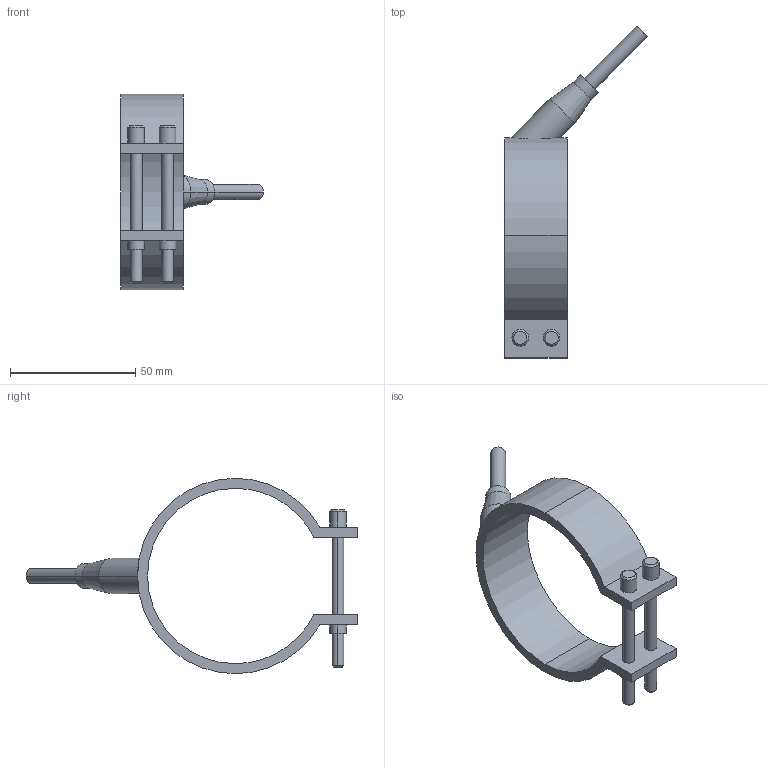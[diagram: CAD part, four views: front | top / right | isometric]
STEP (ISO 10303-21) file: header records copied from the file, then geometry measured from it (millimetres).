
FILE_DESCRIPTION(('CATIA V5 STEP Exchange'),'2;1');
FILE_NAME('C:\Users\Utente\Desktop\IO LAVORO\3D X SITO CF\X SITO\PLASTICA\RF1\29070025.stp','2021-03-27T09:45:05+00:00',('none'),('none'),'CATIA Version 5 Release 20 GA (IN-10)','CATIA V5 STEP AP203','none');
FILE_SCHEMA(('CONFIG_CONTROL_DESIGN'));
Length unit declared in the file: millimetre
Products named in the file (1): 29070025
Bounding box: 57.05 x 132.55 x 78 mm (x, y, z)
Volume: 29913.6 mm3; surface area: 16775.7 mm2
Topology: 1 solids, 1 shells, 54 faces, 126 edges, 82 vertices
Faces by surface type: cylinder 28, plane 16, cone 10
Entity records: 1761 total; most frequent: CARTESIAN_POINT 514, ORIENTED_EDGE 252, DIRECTION 213, EDGE_CURVE 126, AXIS2_PLACEMENT_3D 106, VERTEX_POINT 82, EDGE_LOOP 66, VECTOR 56
